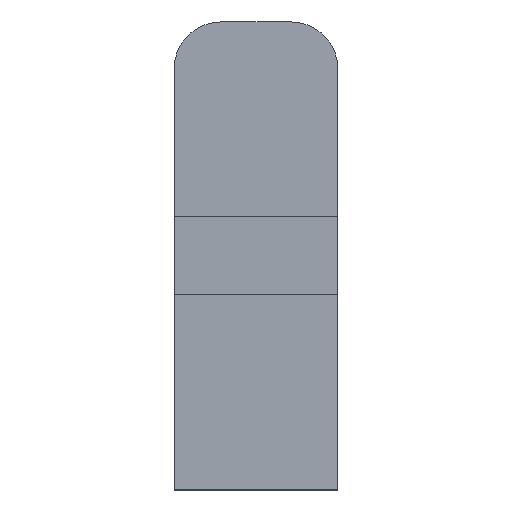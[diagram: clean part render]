
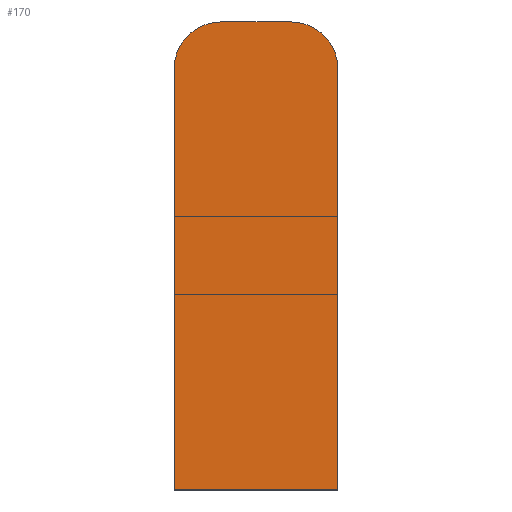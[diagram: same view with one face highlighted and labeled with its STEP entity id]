
A CAD part, front view. The second image highlights one B-rep face of the part: STEP entity #170.
In plain terms, the highlighted planar face has unit normal (0, -1, 0).
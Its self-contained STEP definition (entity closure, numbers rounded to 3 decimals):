
#7 = CARTESIAN_POINT ( 'NONE',  ( 5.25, 0., -16.5 ) ) ;
#9 = DIRECTION ( 'NONE',  ( 1., 0., 0. ) ) ;
#31 = PLANE ( 'NONE',  #368 ) ;
#34 = CARTESIAN_POINT ( 'NONE',  ( 0., 0., -1.5 ) ) ;
#40 = DIRECTION ( 'NONE',  ( 0., 1., 0. ) ) ;
#41 = DIRECTION ( 'NONE',  ( -1., 0., 0. ) ) ;
#48 = CARTESIAN_POINT ( 'NONE',  ( 2.25, 0., 10.5 ) ) ;
#53 = DIRECTION ( 'NONE',  ( 0., -1., 0. ) ) ;
#54 = DIRECTION ( 'NONE',  ( -1., 0., 0. ) ) ;
#67 = CARTESIAN_POINT ( 'NONE',  ( -5.25, 0., -16.5 ) ) ;
#68 = DIRECTION ( 'NONE',  ( 0., 0., -1. ) ) ;
#69 = CARTESIAN_POINT ( 'NONE',  ( 2.25, 0., 13.5 ) ) ;
#70 = DIRECTION ( 'NONE',  ( -1., 0., 0. ) ) ;
#74 = CARTESIAN_POINT ( 'NONE',  ( -2.25, 0., 10.5 ) ) ;
#75 = DIRECTION ( 'NONE',  ( 0., -1., 0. ) ) ;
#76 = DIRECTION ( 'NONE',  ( -1., 0., 0. ) ) ;
#86 = CARTESIAN_POINT ( 'NONE',  ( 5.25, 0., -16.5 ) ) ;
#87 = DIRECTION ( 'NONE',  ( 0., 0., 1. ) ) ;
#117 = CARTESIAN_POINT ( 'NONE',  ( 5.25, 0., 10.5 ) ) ;
#123 = CARTESIAN_POINT ( 'NONE',  ( -5.25, 0., -16.5 ) ) ;
#126 = CARTESIAN_POINT ( 'NONE',  ( 5.25, 0., -16.5 ) ) ;
#129 = CARTESIAN_POINT ( 'NONE',  ( -2.25, 0., 13.5 ) ) ;
#130 = CARTESIAN_POINT ( 'NONE',  ( -5.25, 0., 10.5 ) ) ;
#134 = CARTESIAN_POINT ( 'NONE',  ( 2.25, 0., 13.5 ) ) ;
#170 = ADVANCED_FACE ( 'NONE', ( #282 ), #31, .F. ) ;
#189 = ORIENTED_EDGE ( 'NONE', *, *, #345, .T. ) ;
#190 = ORIENTED_EDGE ( 'NONE', *, *, #343, .T. ) ;
#197 = ORIENTED_EDGE ( 'NONE', *, *, #342, .T. ) ;
#198 = ORIENTED_EDGE ( 'NONE', *, *, #353, .T. ) ;
#205 = ORIENTED_EDGE ( 'NONE', *, *, #366, .T. ) ;
#224 = EDGE_LOOP ( 'NONE', ( #205, #268, #190, #189, #197, #198 ) ) ;
#251 = VECTOR ( 'NONE', #68, 1000. ) ;
#252 = LINE ( 'NONE', #69, #253 ) ;
#253 = VECTOR ( 'NONE', #70, 1000. ) ;
#256 = LINE ( 'NONE', #67, #251 ) ;
#259 = CIRCLE ( 'NONE', #331, 3. ) ;
#261 = LINE ( 'NONE', #7, #293 ) ;
#266 = LINE ( 'NONE', #86, #295 ) ;
#268 = ORIENTED_EDGE ( 'NONE', *, *, #333, .T. ) ;
#270 = CIRCLE ( 'NONE', #367, 3. ) ;
#282 = FACE_OUTER_BOUND ( 'NONE', #224, .T. ) ;
#293 = VECTOR ( 'NONE', #9, 1000. ) ;
#295 = VECTOR ( 'NONE', #87, 1000. ) ;
#331 = AXIS2_PLACEMENT_3D ( 'NONE', #74, #75, #76 ) ;
#333 = EDGE_CURVE ( 'NONE', #396, #407, #270, .T. ) ;
#342 = EDGE_CURVE ( 'NONE', #402, #393, #256, .T. ) ;
#343 = EDGE_CURVE ( 'NONE', #407, #400, #252, .T. ) ;
#345 = EDGE_CURVE ( 'NONE', #400, #402, #259, .T. ) ;
#353 = EDGE_CURVE ( 'NONE', #393, #397, #261, .T. ) ;
#366 = EDGE_CURVE ( 'NONE', #397, #396, #266, .T. ) ;
#367 = AXIS2_PLACEMENT_3D ( 'NONE', #48, #53, #54 ) ;
#368 = AXIS2_PLACEMENT_3D ( 'NONE', #34, #40, #41 ) ;
#393 = VERTEX_POINT ( 'NONE', #123 ) ;
#396 = VERTEX_POINT ( 'NONE', #117 ) ;
#397 = VERTEX_POINT ( 'NONE', #126 ) ;
#400 = VERTEX_POINT ( 'NONE', #129 ) ;
#402 = VERTEX_POINT ( 'NONE', #130 ) ;
#407 = VERTEX_POINT ( 'NONE', #134 ) ;
